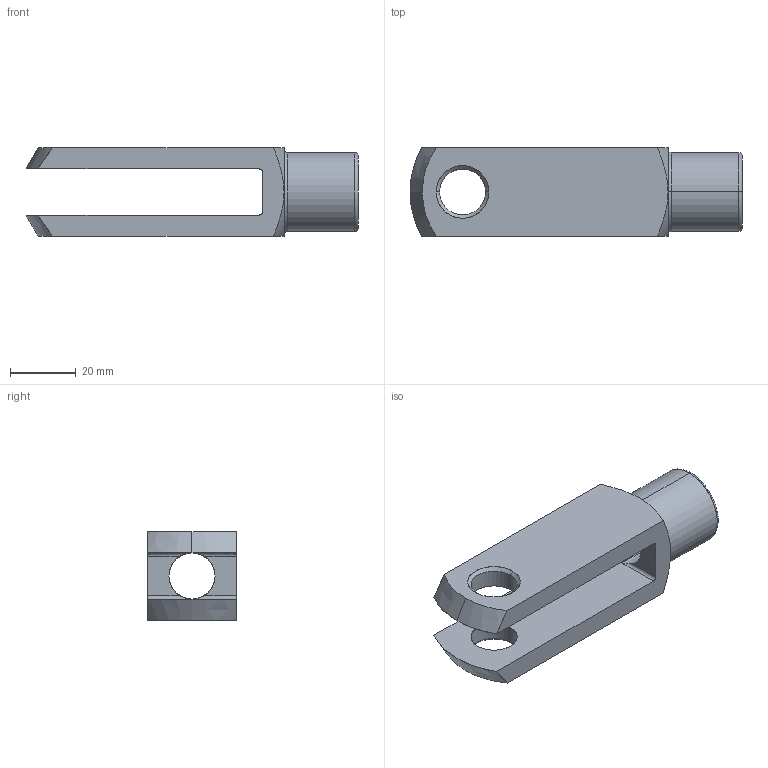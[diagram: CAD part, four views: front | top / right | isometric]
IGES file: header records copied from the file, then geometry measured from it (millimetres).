
Start section: SolidWorks IGES file using analytic representation for surfaces
Global section: file name: C:\Documents and Settings\IANO\My Documents\Wix and Auto CAD Work\CAD Models\Parametric Models\Wix Models\60000\65635_v2\65635_v2_IGES\65635.W0145.igs; native system: SolidWorks 2009; preprocessor: SolidWorks 2009; author: IANO; date: 140117.130701; units: millimetre
Bounding box: 101 x 27 x 27 mm (x, y, z)
Surface area: 13756 mm2 (no closed solid volume)
Topology: 0 solids, 0 shells, 39 faces, 620 edges, 620 vertices
Faces by surface type: revolution 25, bspline 14
